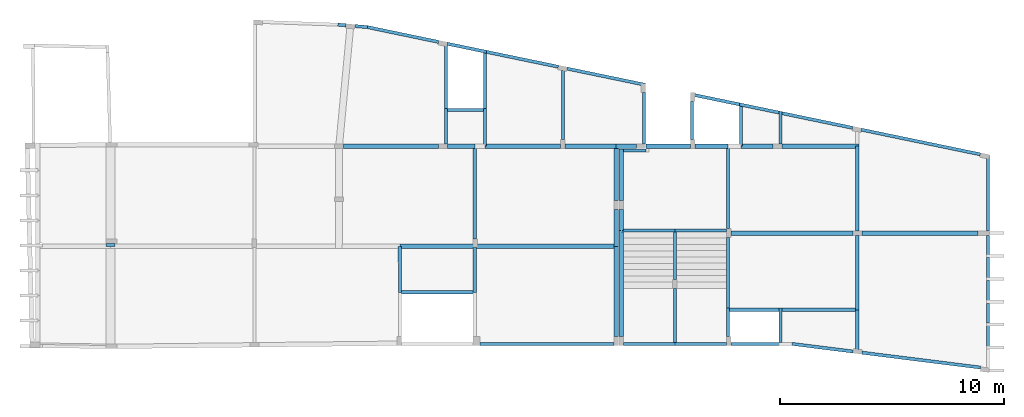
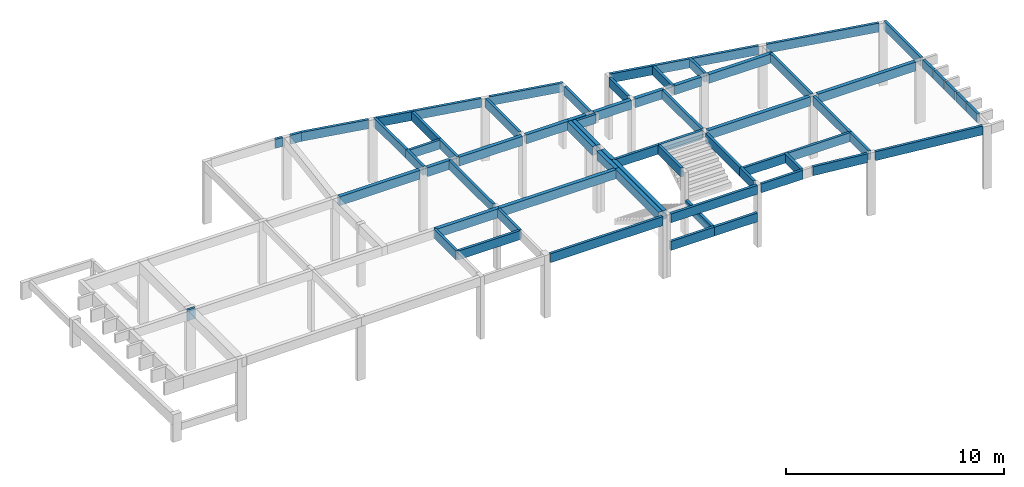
# One storey, part 2 of 5: 71 beams.
"""IFC4 building model written with IfcOpenShell, lengths in centimetres."""

import ifcopenshell
import ifcopenshell.guid

model = None  # the IFC model being written
_history = None  # IfcOwnerHistory: only IFC2X3 demands one
_inside = {}  # id of a spatial element -> (the spatial element, [elements in it])
_under = {}  # id of a project, library or spatial element -> (it, [spatial elements below it])
_declared = {}  # id of a project -> (the project, [libraries it declares])
_typed = {}  # id of a type object -> (the type object, [elements of that type])
_made_of = {}  # id of a material, layer set ... -> (it, [elements and type objects made of it])


def new_model(schema):
    """Start an empty IFC model of exactly this schema.

    Asked for "IFC4X3", IfcOpenShell would pick the latest addendum, in which some entities
    have other attributes; the version numbers below select the first issue.
    IFC2X3 requires an IfcOwnerHistory on every rooted entity: one is made here for all.
    """
    global model, _history
    if schema == "IFC4X3":
        model = ifcopenshell.file(schema_version=(4, 3, 0, 0))
    else:
        model = ifcopenshell.file(schema=schema)
    _inside.clear()
    _under.clear()
    _declared.clear()
    _typed.clear()
    _made_of.clear()
    _history = None
    if model.schema == "IFC2X3":
        org = make("IfcOrganization", Name="unknown")
        user = make(
            "IfcPersonAndOrganization",
            ThePerson=make("IfcPerson", FamilyName="unknown"),
            TheOrganization=org,
        )
        app = make(
            "IfcApplication",
            ApplicationDeveloper=org,
            Version="unknown",
            ApplicationFullName="unknown",
            ApplicationIdentifier="unknown",
        )
        _history = make(
            "IfcOwnerHistory",
            OwningUser=user,
            OwningApplication=app,
            ChangeAction="ADDED",
            CreationDate=0,
        )
    return model


def make(cls, **values):
    """One entity of the class cls with the attributes given. An attribute that is None is left unset."""
    return model.create_entity(
        cls, **{name: value for name, value in values.items() if value is not None}
    )


def rooted(cls, **values):
    """An entity with a GlobalId (a new one), such as an element, a storey or a relation."""
    return make(cls, GlobalId=ifcopenshell.guid.new(), OwnerHistory=_history, **values)


def si_unit(unit_type, name, prefix=None):
    """IfcSIUnit, for example si_unit("LENGTHUNIT", "METRE", prefix="MILLI")."""
    return make("IfcSIUnit", UnitType=unit_type, Prefix=prefix, Name=name)


def derived_unit(unit_type, elements):
    """IfcDerivedUnit: a product of units, each with its exponent."""
    return make(
        "IfcDerivedUnit",
        Elements=[
            make("IfcDerivedUnitElement", Unit=unit, Exponent=power)
            for unit, power in elements
        ],
        UnitType=unit_type,
    )


def assignment(units):
    """IfcUnitAssignment: the units of a project."""
    return None if units is None else make("IfcUnitAssignment", Units=units)


def point(xyz):
    """IfcCartesianPoint."""
    return None if xyz is None else make("IfcCartesianPoint", Coordinates=xyz)


def direction(xyz):
    """IfcDirection."""
    return None if xyz is None else make("IfcDirection", DirectionRatios=xyz)


def frame(location, z_axis=None, x_axis=None):
    """IfcAxis2Placement3D, a coordinate frame: its origin and axes. An axis left out is left unset."""
    return make(
        "IfcAxis2Placement3D",
        Location=point(location),
        Axis=direction(z_axis),
        RefDirection=direction(x_axis),
    )


def frame_2d(location, x_axis=None):
    """IfcAxis2Placement2D, a coordinate frame in the plane: its origin and x axis."""
    return make(
        "IfcAxis2Placement2D", Location=point(location), RefDirection=direction(x_axis)
    )


def origin():
    """The frame at (0, 0, 0) with its axes left unset."""
    return frame((0.0, 0.0, 0.0))


def origin_with_axes():
    """The frame at (0, 0, 0) with the z axis (0, 0, 1) and the x axis (1, 0, 0) written out."""
    return frame((0.0, 0.0, 0.0), z_axis=(0.0, 0.0, 1.0), x_axis=(1.0, 0.0, 0.0))


def origin_2d_with_axis():
    """The frame at (0, 0) in the plane with the x axis (1, 0) written out."""
    return frame_2d((0.0, 0.0), x_axis=(1.0, 0.0))


def place(relative_to, where):
    """IfcLocalPlacement: puts the frame where relative to a parent placement (None: the world)."""
    return make(
        "IfcLocalPlacement", PlacementRelTo=relative_to, RelativePlacement=where
    )


def context(
    kind, dimensions, precision=None, world=None, true_north=None, identifier=None
):
    """IfcGeometricRepresentationContext, for example the 3D "Model" context."""
    return make(
        "IfcGeometricRepresentationContext",
        ContextIdentifier=identifier,
        ContextType=kind,
        CoordinateSpaceDimension=dimensions,
        Precision=precision,
        WorldCoordinateSystem=world,
        TrueNorth=true_north,
    )


def project(units=None, contexts=None):
    """IfcProject with its units and contexts."""
    return rooted(
        "IfcProject",
        Name="project",
        RepresentationContexts=contexts,
        UnitsInContext=assignment(units),
    )


def spatial(cls, under=None, at=None, **own):
    """A site, building, storey or space (cls), placed at a placement, below another one or the project."""
    s = rooted(cls, ObjectPlacement=at, **own)
    if under is not None:
        _under.setdefault(under.id(), (under, []))[1].append(s)
    return s


def profile(cls, at=None, kind="AREA", **sizes):
    """A parametric profile (cls). Its sizes go by their IFC names, for example OverallWidth=200.0."""
    return make(cls, ProfileType=kind, Position=at, **sizes)


def rectangle(**sizes):
    """IfcRectangleProfileDef."""
    return profile("IfcRectangleProfileDef", **sizes)


def extrude(swept, where, along, depth):
    """IfcExtrudedAreaSolid: the profile swept, set in the frame where, extruded along a direction by depth."""
    return make(
        "IfcExtrudedAreaSolid",
        SweptArea=swept,
        Position=where,
        ExtrudedDirection=direction(along),
        Depth=depth,
    )


def clip(a, b, op="DIFFERENCE"):
    """IfcBooleanClippingResult: the solid a cut by the half space b."""
    return make(
        "IfcBooleanClippingResult", Operator=op, FirstOperand=a, SecondOperand=b
    )


def halfspace(plane, agree):
    """IfcHalfSpaceSolid: all space on one side of the plane z = 0 of the frame plane."""
    return make(
        "IfcHalfSpaceSolid",
        BaseSurface=make("IfcPlane", Position=plane),
        AgreementFlag=agree,
    )


def shape(context_of_items, identifier, shape_type, items):
    """IfcShapeRepresentation: the items that make up one representation, for example the "Body"."""
    return make(
        "IfcShapeRepresentation",
        ContextOfItems=context_of_items,
        RepresentationIdentifier=identifier,
        RepresentationType=shape_type,
        Items=items,
    )


def material(Name=None, Category=None):
    """IfcMaterial."""
    return make("IfcMaterial", Name=Name, Category=Category)


def made_of(thing, what):
    """Note that an element or type object is made of a material, layer set ...; save() writes the relation."""
    if what is not None:
        _made_of.setdefault(what.id(), (what, []))[1].append(thing)
    return thing


def element(
    cls,
    number,
    at=None,
    inside=None,
    cuts=None,
    type_object=None,
    material=None,
    context=None,
    identifier="Body",
    shape_type=None,
    held_by="IfcProductDefinitionShape",
    body=None,
    shapes=None,
    **own,
):
    """One element of the class cls, such as IfcWall. Its Tag is "e" and its number.

    at: its placement. inside: the storey or other place that contains it. cuts: it is an
    opening in that element (IfcRelVoidsElement). A single representation is given by context,
    identifier, shape_type and body (its items); several are given by shapes. held_by: the class
    of the entity that holds the representations. save() writes the other relations.
    """
    e = rooted(cls, Tag="e%d" % number, ObjectPlacement=at, **own)
    if body is not None:
        shapes = [shape(context, identifier, shape_type, body)]
    if shapes is not None:
        e.Representation = make(held_by, Representations=shapes)
    if inside is not None:
        _inside.setdefault(inside.id(), (inside, []))[1].append(e)
    if cuts is not None:
        rooted(
            "IfcRelVoidsElement", RelatingBuildingElement=cuts, RelatedOpeningElement=e
        )
    if type_object is not None:
        _typed.setdefault(type_object.id(), (type_object, []))[1].append(e)
    return made_of(e, material)


def aggregate(whole, parts):
    """IfcRelAggregates: a whole, such as a stair, and the parts it consists of."""
    return rooted("IfcRelAggregates", RelatingObject=whole, RelatedObjects=parts)


def save(model, path):
    """Write the relations noted so far, then the file.

    IfcRelAggregates (storeys below a building ...), IfcRelContainedInSpatialStructure (elements
    in a storey), IfcRelDefinesByType, IfcRelAssociatesMaterial and IfcRelDeclares: one each for
    every whole, place, type object, material and project.
    """
    for whole, parts in _under.values():
        aggregate(whole, parts)
    for where, things in _inside.values():
        rooted(
            "IfcRelContainedInSpatialStructure",
            RelatedElements=things,
            RelatingStructure=where,
        )
    for kind, things in _typed.values():
        rooted("IfcRelDefinesByType", RelatedObjects=things, RelatingType=kind)
    for what, things in _made_of.values():
        rooted("IfcRelAssociatesMaterial", RelatedObjects=things, RelatingMaterial=what)
    for by, libraries in _declared.values():
        rooted("IfcRelDeclares", RelatingContext=by, RelatedDefinitions=libraries)
    model.write(path)


model = new_model("IFC4")

# Units and contexts
model_context = context("Model", 3, precision=1e-05, world=origin_with_axes(), identifier="Body")
ifc_project = project(units=[si_unit("LENGTHUNIT", "METRE", prefix="CENTI"), si_unit("VOLUMEUNIT", "CUBIC_METRE"), si_unit("AREAUNIT", "SQUARE_METRE"), si_unit("POWERUNIT", "WATT"), si_unit("LUMINOUSFLUXUNIT", "LUMEN"), si_unit("ELECTRICCURRENTUNIT", "AMPERE"), si_unit("PRESSUREUNIT", "PASCAL", prefix="KILO"), si_unit("MASSUNIT", "GRAM", prefix="KILO"), si_unit("PLANEANGLEUNIT", "RADIAN"), derived_unit("VOLUMETRICFLOWRATEUNIT", [(si_unit("LENGTHUNIT", "METRE"), 3), (si_unit("TIMEUNIT", "SECOND"), -1)])], contexts=[model_context])

# Site, building, storey
site_placement = place(None, origin_with_axes())
site = spatial("IfcSite", under=ifc_project, at=site_placement)
building_placement = place(site_placement, origin())
building = spatial("IfcBuilding", under=site, at=building_placement)
placement_1 = place(building_placement, origin_with_axes())
placement_2 = place(placement_1, frame((0.0, 0.0, 550.0), z_axis=(0.0, 0.0, 1.0), x_axis=(1.0, 0.0, 0.0)))
storey_placement = place(placement_2, frame((0.0, 0.0, 350.0), z_axis=(0.0, 0.0, 1.0), x_axis=(1.0, 0.0, 0.0)))
storey = spatial("IfcBuildingStorey", under=building, at=storey_placement, Name="1º PAV.", CompositionType="ELEMENT", Elevation=900.0)

# Beams
ifc_material = material(Name="Concreto")
for number, where, z_axis, x_axis in (
    (1, (2788.6, -1337.1, -154.5), (0.0, 0.0, 1.0), (1.0, 0.0, 0.0)),
    (2, (3018.6, -1337.1, -154.5), (0.0, 0.0, 1.0), (1.0, 0.0, 0.0)),
):
    element("IfcBeam", number, at=place(storey_placement, frame(where, z_axis=z_axis, x_axis=x_axis)), inside=storey, material=ifc_material, Name="V.ESCADA1", context=model_context, shape_type="SolidModel", body=[
        extrude(rectangle(XDim=14.0, YDim=50.0, at=origin_2d_with_axis()), frame((-115.0, 0.0, -25.0), z_axis=(1.0, 0.0, 0.0), x_axis=(0.0, 1.0, 0.0)), (0.0, 0.0, 1.0), 230.0),
    ])
beam_1_placement = place(storey_placement, frame((2903.6, -1213.6, -154.5), z_axis=(0.0, 0.0, 1.0), x_axis=(1.0, 0.0, 0.0)))
element("IfcBeam", 3, at=beam_1_placement, inside=storey, material=ifc_material, Name="V.ESCADA2", context=model_context, shape_type="SolidModel", body=[
    extrude(rectangle(XDim=14.0, YDim=50.0, at=origin_2d_with_axis()), frame((0.0, -123.5, -25.0), z_axis=(0.0, 1.0, 0.0), x_axis=(1.0, 0.0, 0.0)), (0.0, 0.0, 1.0), 247.0),
])
beam_2_placement = place(storey_placement, frame((1971.0, -294.9, 0.0), z_axis=(0.0, 0.0, 1.0), x_axis=(1.0, 0.0, 0.0)))
element("IfcBeam", 4, at=beam_2_placement, inside=storey, material=ifc_material, Name="V1", context=model_context, shape_type="SolidModel", body=[
    extrude(rectangle(XDim=14.0, YDim=50.0, at=origin_2d_with_axis()), frame((-80.0, 0.0, -25.0), z_axis=(1.0, 0.0, 0.0), x_axis=(0.0, 1.0, 0.0)), (0.0, 0.0, 1.0), 160.0),
])
beam_3_placement = place(storey_placement, frame((3425.1, -843.1, 0.0), z_axis=(0.0, 0.0, 1.0), x_axis=(1.0, 0.0, 0.0)))
element("IfcBeam", 5, at=beam_3_placement, inside=storey, material=ifc_material, Name="V10", context=model_context, shape_type="SolidModel", body=[
    extrude(rectangle(XDim=20.0, YDim=50.0, at=origin_2d_with_axis()), frame((-271.5, 0.0, -25.0), z_axis=(1.0, 0.0, 0.0), x_axis=(0.0, 1.0, 0.0)), (0.0, 0.0, 1.0), 543.0),
])
beam_4_placement = place(storey_placement, frame((3996.1, -843.1, 0.0), z_axis=(0.0, 0.0, 1.0), x_axis=(1.0, 0.0, 0.0)))
element("IfcBeam", 6, at=beam_4_placement, inside=storey, material=ifc_material, Name="V10", context=model_context, shape_type="SolidModel", body=[
    extrude(rectangle(XDim=20.0, YDim=50.0, at=origin_2d_with_axis()), frame((-259.5, 0.0, -25.0), z_axis=(1.0, 0.0, 0.0), x_axis=(0.0, 1.0, 0.0)), (0.0, 0.0, 1.0), 519.0),
])
beam_5_placement = place(storey_placement, frame((1846.085, -902.4, 0.0), z_axis=(0.0, 0.0, 1.0), x_axis=(1.0, 0.0, 0.0)))
element("IfcBeam", 7, at=beam_5_placement, inside=storey, material=ifc_material, Name="V13", context=model_context, shape_type="SolidModel", body=[
    extrude(rectangle(XDim=20.0, YDim=50.0, at=origin_2d_with_axis()), frame((-168.515, 0.0, -25.0), z_axis=(1.0, 0.0, 0.0), x_axis=(0.0, 1.0, 0.0)), (0.0, 0.0, 1.0), 337.03),
])
beam_6_placement = place(storey_placement, frame((2328.105, -902.4, 0.0), z_axis=(0.0, 0.0, 1.0), x_axis=(1.0, 0.0, 0.0)))
element("IfcBeam", 8, at=beam_6_placement, inside=storey, material=ifc_material, Name="V13", context=model_context, shape_type="SolidModel", body=[
    extrude(rectangle(XDim=20.0, YDim=50.0, at=origin_2d_with_axis()), frame((-313.505, 0.0, -25.0), z_axis=(1.0, 0.0, 0.0), x_axis=(0.0, 1.0, 0.0)), (0.0, 0.0, 1.0), 627.01),
])
beam_7_placement = place(storey_placement, frame((1844.6, -1106.9, 0.0), z_axis=(0.0, 0.0, 1.0), x_axis=(1.0, 0.0, 0.0)))
element("IfcBeam", 9, at=beam_7_placement, inside=storey, material=ifc_material, Name="V18", context=model_context, shape_type="SolidModel", body=[
    extrude(rectangle(XDim=14.0, YDim=50.0, at=origin_2d_with_axis()), frame((-167.0, 0.0, -25.0), z_axis=(1.0, 0.0, 0.0), x_axis=(0.0, -1.0, 0.0)), (0.0, 0.0, 1.0), 334.0),
])
beam_8_placement = place(storey_placement, frame((3257.6, -1184.9, 0.0), z_axis=(0.0, 0.0, 1.0), x_axis=(1.0, 0.0, 0.0)))
element("IfcBeam", 10, at=beam_8_placement, inside=storey, material=ifc_material, Name="V19", context=model_context, shape_type="SolidModel", body=[
    extrude(rectangle(XDim=14.0, YDim=50.0, at=origin_2d_with_axis()), frame((-110.0, 0.0, -25.0), z_axis=(1.0, 0.0, 0.0), x_axis=(0.0, 1.0, 0.0)), (0.0, 0.0, 1.0), 220.0),
])
beam_9_placement = place(storey_placement, frame((3545.6, -1184.9, 0.0), z_axis=(0.0, 0.0, 1.0), x_axis=(1.0, 0.0, 0.0)))
element("IfcBeam", 11, at=beam_9_placement, inside=storey, material=ifc_material, Name="V19", context=model_context, shape_type="SolidModel", body=[
    extrude(rectangle(XDim=14.0, YDim=50.0, at=origin_2d_with_axis()), frame((-171.0, 0.0, -25.0), z_axis=(1.0, 0.0, 0.0), x_axis=(0.0, 1.0, 0.0)), (0.0, 0.0, 1.0), 342.0),
])
beam_10_placement = place(storey_placement, frame((2333.1, -1337.1, 0.0), z_axis=(0.0, 0.0, 1.0), x_axis=(1.0, 0.0, 0.0)))
element("IfcBeam", 12, at=beam_10_placement, inside=storey, material=ifc_material, Name="V25", context=model_context, shape_type="SolidModel", body=[
    extrude(rectangle(XDim=14.0, YDim=50.0, at=origin_2d_with_axis()), frame((-298.5, 0.0, -25.0), z_axis=(1.0, 0.0, 0.0), x_axis=(0.0, -1.0, 0.0)), (0.0, 0.0, 1.0), 597.0),
])
beam_11_placement = place(storey_placement, frame((387.75, -896.16, 0.0), z_axis=(0.0, 0.0, 1.0), x_axis=(1.0, 0.0, 0.0)))
element("IfcBeam", 13, at=beam_11_placement, inside=storey, material=ifc_material, Name="V29", context=model_context, shape_type="SolidModel", body=[
    extrude(rectangle(XDim=40.0, YDim=60.0, at=origin_2d_with_axis()), frame((0.0, -6.26, -30.0), z_axis=(0.0, 1.0, 0.0), x_axis=(1.0, 0.0, 0.0)), (0.0, 0.0, 1.0), 12.52),
])
beam_12_placement = place(storey_placement, frame((2687.3, -455.9, 0.0), z_axis=(0.0, 0.0, 1.0), x_axis=(1.0, 0.0, 0.0)))
element("IfcBeam", 14, at=beam_12_placement, inside=storey, material=ifc_material, Name="V3", context=model_context, shape_type="SolidModel", body=[
    extrude(rectangle(XDim=20.0, YDim=50.0, at=origin_2d_with_axis()), frame((-45.7, 0.0, -25.0), z_axis=(1.0, 0.0, 0.0), x_axis=(0.0, 1.0, 0.0)), (0.0, 0.0, 1.0), 91.4),
])
beam_13_placement = place(storey_placement, frame((1638.5, -455.9, 0.0), z_axis=(0.0, 0.0, 1.0), x_axis=(1.0, 0.0, 0.0)))
element("IfcBeam", 15, at=beam_13_placement, inside=storey, material=ifc_material, Name="V3", context=model_context, shape_type="SolidModel", body=[
    extrude(rectangle(XDim=20.0, YDim=50.0, at=origin_2d_with_axis()), frame((-212.5, 0.0, -25.0), z_axis=(1.0, 0.0, 0.0), x_axis=(0.0, 1.0, 0.0)), (0.0, 0.0, 1.0), 425.0),
])
beam_14_placement = place(storey_placement, frame((1951.3, -455.9, 0.0), z_axis=(0.0, 0.0, 1.0), x_axis=(1.0, 0.0, 0.0)))
element("IfcBeam", 16, at=beam_14_placement, inside=storey, material=ifc_material, Name="V3", context=model_context, shape_type="SolidModel", body=[
    extrude(rectangle(XDim=20.0, YDim=50.0, at=origin_2d_with_axis()), frame((-60.3, 0.0, -25.0), z_axis=(1.0, 0.0, 0.0), x_axis=(0.0, 1.0, 0.0)), (0.0, 0.0, 1.0), 120.6),
])
beam_15_placement = place(storey_placement, frame((2226.25, -455.9, 0.0), z_axis=(0.0, 0.0, 1.0), x_axis=(1.0, 0.0, 0.0)))
element("IfcBeam", 17, at=beam_15_placement, inside=storey, material=ifc_material, Name="V3", context=model_context, shape_type="SolidModel", body=[
    extrude(rectangle(XDim=20.0, YDim=50.0, at=origin_2d_with_axis()), frame((-168.25, 0.0, -25.0), z_axis=(1.0, 0.0, 0.0), x_axis=(0.0, 1.0, 0.0)), (0.0, 0.0, 1.0), 336.5),
])
beam_16_placement = place(storey_placement, frame((2528.05, -455.9, 0.0), z_axis=(0.0, 0.0, 1.0), x_axis=(1.0, 0.0, 0.0)))
element("IfcBeam", 18, at=beam_16_placement, inside=storey, material=ifc_material, Name="V3", context=model_context, shape_type="SolidModel", body=[
    extrude(rectangle(XDim=20.0, YDim=50.0, at=origin_2d_with_axis()), frame((-113.55, 0.0, -25.0), z_axis=(1.0, 0.0, 0.0), x_axis=(0.0, 1.0, 0.0)), (0.0, 0.0, 1.0), 227.1),
])
beam_17_placement = place(storey_placement, frame((1677.5850000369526, -1004.6502567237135, 0.0), z_axis=(0.0, 0.0, 1.0), x_axis=(1.0, 0.0, 0.0)))
element("IfcBeam", 19, at=beam_17_placement, inside=storey, material=ifc_material, Name="V32", context=model_context, shape_type="SolidModel", body=[
    extrude(rectangle(XDim=14.0, YDim=50.0, at=origin_2d_with_axis()), frame((0.015000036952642, -102.25025672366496, -25.0), z_axis=(-0.000146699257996, 1.0, 0.0), x_axis=(1.0, 0.000146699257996, 0.0)), (0.0, 0.0, 1.0), 204.50051564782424),
])
beam_18_placement = place(storey_placement, frame((1884.0, -143.655, 0.0), z_axis=(0.0, 0.0, 1.0), x_axis=(1.0, 0.0, 0.0)))
element("IfcBeam", 20, at=beam_18_placement, inside=storey, material=ifc_material, Name="V33", context=model_context, shape_type="SolidModel", body=[
    extrude(rectangle(XDim=14.0, YDim=50.0, at=origin_2d_with_axis()), frame((0.0, -151.245, -25.0), z_axis=(0.0, 1.0, 0.0), x_axis=(1.0, 0.0, 0.0)), (0.0, 0.0, 1.0), 302.49),
])
beam_19_placement = place(storey_placement, frame((1884.0, -366.9, 0.0), z_axis=(0.0, 0.0, 1.0), x_axis=(1.0, 0.0, 0.0)))
element("IfcBeam", 21, at=beam_19_placement, inside=storey, material=ifc_material, Name="V33", context=model_context, shape_type="SolidModel", body=[
    extrude(rectangle(XDim=14.0, YDim=50.0, at=origin_2d_with_axis()), frame((0.0, -79.0, -25.0), z_axis=(0.0, 1.0, 0.0), x_axis=(1.0, 0.0, 0.0)), (0.0, 0.0, 1.0), 158.0),
])
beam_20_placement = place(storey_placement, frame((2011.6, -1007.65, 0.0), z_axis=(0.0, 0.0, 1.0), x_axis=(1.0, 0.0, 0.0)))
element("IfcBeam", 22, at=beam_20_placement, inside=storey, material=ifc_material, Name="V34", context=model_context, shape_type="SolidModel", body=[
    extrude(rectangle(XDim=14.0, YDim=50.0, at=origin_2d_with_axis()), frame((0.0, -99.25, -25.0), z_axis=(0.0, 1.0, 0.0), x_axis=(1.0, 0.0, 0.0)), (0.0, 0.0, 1.0), 198.5),
])
beam_21_placement = place(storey_placement, frame((2011.6, -662.15, 0.0), z_axis=(0.0, 0.0, 1.0), x_axis=(1.0, 0.0, 0.0)))
element("IfcBeam", 23, at=beam_21_placement, inside=storey, material=ifc_material, Name="V34", context=model_context, shape_type="SolidModel", body=[
    extrude(rectangle(XDim=14.0, YDim=50.0, at=origin_2d_with_axis()), frame((0.0, -206.25, -25.0), z_axis=(0.0, 1.0, 0.0), x_axis=(1.0, 0.0, 0.0)), (0.0, 0.0, 1.0), 412.5),
])
beam_22_placement = place(storey_placement, frame((2058.0, -167.41825719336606, 0.0), z_axis=(0.0, 0.0, 1.0), x_axis=(1.0, 0.0, 0.0)))
element("IfcBeam", 24, at=beam_22_placement, inside=storey, material=ifc_material, Name="V35", context=model_context, shape_type="Clipping", body=[
    clip(extrude(rectangle(XDim=14.0, YDim=50.0, at=origin_2d_with_axis()), frame((0.0, -127.48174280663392, -25.0), z_axis=(0.0, 1.0, 0.0), x_axis=(1.0, 0.0, 0.0)), (0.0, 0.0, 1.0), 254.96348561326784), halfspace(frame((-7.0, 127.48174280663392, -50.0), z_axis=(-0.203188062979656, -0.979139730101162, 0.0), x_axis=(0.0, 0.0, -0.203188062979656)), True)),
])
beam_23_placement = place(storey_placement, frame((2058.0, -371.9, 0.0), z_axis=(0.0, 0.0, 1.0), x_axis=(1.0, 0.0, 0.0)))
element("IfcBeam", 25, at=beam_23_placement, inside=storey, material=ifc_material, Name="V35", context=model_context, shape_type="SolidModel", body=[
    extrude(rectangle(XDim=14.0, YDim=50.0, at=origin_2d_with_axis()), frame((0.0, -84.0, -25.0), z_axis=(0.0, 1.0, 0.0), x_axis=(1.0, 0.0, 0.0)), (0.0, 0.0, 1.0), 168.0),
])
beam_24_placement = place(storey_placement, frame((2404.5, -271.943363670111, 0.0), z_axis=(0.0, 0.0, 1.0), x_axis=(1.0, 0.0, 0.0)))
element("IfcBeam", 26, at=beam_24_placement, inside=storey, material=ifc_material, Name="V36", context=model_context, shape_type="SolidModel", body=[
    extrude(rectangle(XDim=14.0, YDim=50.0, at=origin_2d_with_axis()), frame((0.0, -153.95663632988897, -25.0), z_axis=(0.0, 1.0, 0.0), x_axis=(1.0, 0.0, 0.0)), (0.0, 0.0, 1.0), 307.91327265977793),
])
beam_25_placement = place(storey_placement, frame((2663.6, -784.6, 0.0), z_axis=(0.0, 0.0, 1.0), x_axis=(1.0, 0.0, 0.0)))
element("IfcBeam", 27, at=beam_25_placement, inside=storey, material=ifc_material, Name="V37", context=model_context, shape_type="SolidModel", body=[
    extrude(rectangle(XDim=20.0, YDim=50.0, at=origin_2d_with_axis()), frame((0.0, -46.5, -25.0), z_axis=(0.0, 1.0, 0.0), x_axis=(1.0, 0.0, 0.0)), (0.0, 0.0, 1.0), 93.0),
])
beam_26_placement = place(storey_placement, frame((2663.6, -583.0, 0.0), z_axis=(0.0, 0.0, 1.0), x_axis=(1.0, 0.0, 0.0)))
element("IfcBeam", 28, at=beam_26_placement, inside=storey, material=ifc_material, Name="V37", context=model_context, shape_type="SolidModel", body=[
    extrude(rectangle(XDim=20.0, YDim=50.0, at=origin_2d_with_axis()), frame((0.0, -115.1, -25.0), z_axis=(0.0, 1.0, 0.0), x_axis=(1.0, 0.0, 0.0)), (0.0, 0.0, 1.0), 230.2),
])
beam_27_placement = place(storey_placement, frame((2663.6, -1067.6, 0.0), z_axis=(0.0, 0.0, 1.0), x_axis=(1.0, 0.0, 0.0)))
element("IfcBeam", 29, at=beam_27_placement, inside=storey, material=ifc_material, Name="V37", context=model_context, shape_type="SolidModel", body=[
    extrude(rectangle(XDim=20.0, YDim=50.0, at=origin_2d_with_axis()), frame((0.0, -236.5, -25.0), z_axis=(0.0, 1.0, 0.0), x_axis=(1.0, 0.0, 0.0)), (0.0, 0.0, 1.0), 473.0),
])
beam_28_placement = place(storey_placement, frame((2641.605, -1103.2498755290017, 0.0), z_axis=(0.0, 0.0, 1.0), x_axis=(1.0, 0.0, 0.0)))
element("IfcBeam", 30, at=beam_28_placement, inside=storey, material=ifc_material, Name="V38", context=model_context, shape_type="SolidModel", body=[
    extrude(rectangle(XDim=20.0, YDim=50.0, at=origin_2d_with_axis()), frame((-0.005, -200.85012447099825, -25.0), z_axis=(2.4894199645e-05, 1.0, 0.0), x_axis=(1.0, -2.4894199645e-05, 0.0)), (0.0, 0.0, 1.0), 401.70024906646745),
])
beam_29_placement = place(storey_placement, frame((2641.6, -577.0, 0.0), z_axis=(0.0, 0.0, 1.0), x_axis=(1.0, 0.0, 0.0)))
element("IfcBeam", 31, at=beam_29_placement, inside=storey, material=ifc_material, Name="V38", context=model_context, shape_type="SolidModel", body=[
    extrude(rectangle(XDim=20.0, YDim=50.0, at=origin_2d_with_axis()), frame((0.0, -121.1, -25.0), z_axis=(0.0, 1.0, 0.0), x_axis=(1.0, 0.0, 0.0)), (0.0, 0.0, 1.0), 242.2),
])
beam_30_placement = place(storey_placement, frame((2641.6050000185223, -820.2503043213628, 0.0), z_axis=(0.0, 0.0, 1.0), x_axis=(1.0, 0.0, 0.0)))
element("IfcBeam", 32, at=beam_30_placement, inside=storey, material=ifc_material, Name="V38", context=model_context, shape_type="SolidModel", body=[
    extrude(rectangle(XDim=20.0, YDim=50.0, at=origin_2d_with_axis()), frame((0.005000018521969, -82.15030432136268, -25.0), z_axis=(-6.0864272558e-05, 1.0, 0.0), x_axis=(1.0, 6.0864272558e-05, 0.0)), (0.0, 0.0, 1.0), 164.30060894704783),
])
beam_31_placement = place(storey_placement, frame((2724.3, -474.9, 0.0), z_axis=(0.0, 0.0, 1.0), x_axis=(1.0, 0.0, 0.0)))
element("IfcBeam", 33, at=beam_31_placement, inside=storey, material=ifc_material, Name="V4", context=model_context, shape_type="SolidModel", body=[
    extrude(rectangle(XDim=14.0, YDim=50.0, at=origin_2d_with_axis()), frame((-50.7, 0.0, -25.0), z_axis=(1.0, 0.0, 0.0), x_axis=(0.0, 1.0, 0.0)), (0.0, 0.0, 1.0), 101.4),
])
beam_32_placement = place(storey_placement, frame((2766.0, -330.695, 0.0), z_axis=(0.0, 0.0, 1.0), x_axis=(1.0, 0.0, 0.0)))
element("IfcBeam", 34, at=beam_32_placement, inside=storey, material=ifc_material, Name="V40", context=model_context, shape_type="SolidModel", body=[
    extrude(rectangle(XDim=14.0, YDim=50.0, at=origin_2d_with_axis()), frame((0.0, -115.205, -25.0), z_axis=(0.0, 1.0, 0.0), x_axis=(1.0, 0.0, 0.0)), (0.0, 0.0, 1.0), 230.41),
])
beam_33_placement = place(storey_placement, frame((2903.6, -944.1, 0.0), z_axis=(0.0, 0.0, 1.0), x_axis=(1.0, 0.0, 0.0)))
element("IfcBeam", 35, at=beam_33_placement, inside=storey, material=ifc_material, Name="V41", context=model_context, shape_type="SolidModel", body=[
    extrude(rectangle(XDim=14.0, YDim=50.0, at=origin_2d_with_axis()), frame((0.0, -106.0, -25.0), z_axis=(0.0, 1.0, 0.0), x_axis=(1.0, 0.0, 0.0)), (0.0, 0.0, 1.0), 212.0),
])
beam_34_placement = place(storey_placement, frame((2980.0, -341.45, 0.0), z_axis=(0.0, 0.0, 1.0), x_axis=(1.0, 0.0, 0.0)))
element("IfcBeam", 36, at=beam_34_placement, inside=storey, material=ifc_material, Name="V42", context=model_context, shape_type="SolidModel", body=[
    extrude(rectangle(XDim=14.0, YDim=50.0, at=origin_2d_with_axis()), frame((0.0, -84.45, -25.0), z_axis=(0.0, 1.0, 0.0), x_axis=(1.0, 0.0, 0.0)), (0.0, 0.0, 1.0), 168.9),
])
beam_35_placement = place(storey_placement, frame((3140.6, -639.75, 0.0), z_axis=(0.0, 0.0, 1.0), x_axis=(1.0, 0.0, 0.0)))
element("IfcBeam", 37, at=beam_35_placement, inside=storey, material=ifc_material, Name="V43", context=model_context, shape_type="SolidModel", body=[
    extrude(rectangle(XDim=14.0, YDim=50.0, at=origin_2d_with_axis()), frame((0.0, -183.85, -25.0), z_axis=(0.0, 1.0, 0.0), x_axis=(1.0, 0.0, 0.0)), (0.0, 0.0, 1.0), 367.7),
])
beam_36_placement = place(storey_placement, frame((3140.6, -1024.25, 0.0), z_axis=(0.0, 0.0, 1.0), x_axis=(1.0, 0.0, 0.0)))
element("IfcBeam", 38, at=beam_36_placement, inside=storey, material=ifc_material, Name="V43", context=model_context, shape_type="SolidModel", body=[
    extrude(rectangle(XDim=14.0, YDim=50.0, at=origin_2d_with_axis()), frame((0.0, -160.65, -25.0), z_axis=(0.0, 1.0, 0.0), x_axis=(1.0, 0.0, 0.0)), (0.0, 0.0, 1.0), 321.3),
])
beam_37_placement = place(storey_placement, frame((3140.6, -1241.0, 0.0), z_axis=(0.0, 0.0, 1.0), x_axis=(1.0, 0.0, 0.0)))
element("IfcBeam", 39, at=beam_37_placement, inside=storey, material=ifc_material, Name="V43", context=model_context, shape_type="SolidModel", body=[
    extrude(rectangle(XDim=14.0, YDim=50.0, at=origin_2d_with_axis()), frame((0.0, -63.1, -25.0), z_axis=(0.0, 1.0, 0.0), x_axis=(1.0, 0.0, 0.0)), (0.0, 0.0, 1.0), 126.2),
])
beam_38_placement = place(storey_placement, frame((3199.0, -366.3280979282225, 0.0), z_axis=(0.0, 0.0, 1.0), x_axis=(1.0, 0.0, 0.0)))
element("IfcBeam", 40, at=beam_38_placement, inside=storey, material=ifc_material, Name="V44", context=model_context, shape_type="Clipping", body=[
    clip(extrude(rectangle(XDim=14.0, YDim=50.0, at=origin_2d_with_axis()), frame((0.0, -89.57190207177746, -25.0), z_axis=(0.0, 1.0, 0.0), x_axis=(1.0, 0.0, 0.0)), (0.0, 0.0, 1.0), 179.14380414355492), halfspace(frame((-7.0, 89.57190207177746, -50.0), z_axis=(-0.203241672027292, -0.979128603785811, 0.0), x_axis=(0.0, 0.0, -0.203241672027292)), True)),
])
beam_39_placement = place(storey_placement, frame((3374.6, -1253.980675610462, 0.0), z_axis=(0.0, 0.0, 1.0), x_axis=(1.0, 0.0, 0.0)))
element("IfcBeam", 41, at=beam_39_placement, inside=storey, material=ifc_material, Name="V45", context=model_context, shape_type="SolidModel", body=[
    extrude(rectangle(XDim=14.0, YDim=50.0, at=origin_2d_with_axis()), frame((0.0, -76.08067561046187, -25.0), z_axis=(0.0, 1.0, 0.0), x_axis=(1.0, 0.0, 0.0)), (0.0, 0.0, 1.0), 152.16135122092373),
])
beam_40_placement = place(storey_placement, frame((3374.6, -372.4038838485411, 0.0), z_axis=(0.0, 0.0, 1.0), x_axis=(1.0, 0.0, 0.0)))
element("IfcBeam", 42, at=beam_40_placement, inside=storey, material=ifc_material, Name="V46", context=model_context, shape_type="Clipping", body=[
    clip(extrude(rectangle(XDim=14.0, YDim=50.0, at=origin_2d_with_axis()), frame((0.0, -73.49611615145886, -25.0), z_axis=(0.0, 1.0, 0.0), x_axis=(1.0, 0.0, 0.0)), (0.0, 0.0, 1.0), 146.99223230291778), halfspace(frame((-7.0, 73.49611615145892, -50.0), z_axis=(-0.203241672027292, -0.979128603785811, 0.0), x_axis=(0.0, 0.0, -0.203241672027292)), True)),
])
beam_41_placement = place(storey_placement, frame((3716.6, -1273.0826731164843, 0.0), z_axis=(0.0, 0.0, 1.0), x_axis=(1.0, 0.0, 0.0)))
element("IfcBeam", 43, at=beam_41_placement, inside=storey, material=ifc_material, Name="V47", context=model_context, shape_type="SolidModel", body=[
    extrude(rectangle(XDim=14.0, YDim=50.0, at=origin_2d_with_axis()), frame((0.0, -88.18267311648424, -25.0), z_axis=(0.0, 1.0, 0.0), x_axis=(1.0, 0.0, 0.0)), (0.0, 0.0, 1.0), 176.36534623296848),
])
beam_42_placement = place(storey_placement, frame((3716.6, -644.5, 0.0), z_axis=(0.0, 0.0, 1.0), x_axis=(1.0, 0.0, 0.0)))
element("IfcBeam", 44, at=beam_42_placement, inside=storey, material=ifc_material, Name="V47", context=model_context, shape_type="SolidModel", body=[
    extrude(rectangle(XDim=14.0, YDim=50.0, at=origin_2d_with_axis()), frame((0.0, -188.6, -25.0), z_axis=(0.0, 1.0, 0.0), x_axis=(1.0, 0.0, 0.0)), (0.0, 0.0, 1.0), 377.2),
])
beam_43_placement = place(storey_placement, frame((3716.6, -1019.0, 0.0), z_axis=(0.0, 0.0, 1.0), x_axis=(1.0, 0.0, 0.0)))
element("IfcBeam", 45, at=beam_43_placement, inside=storey, material=ifc_material, Name="V47", context=model_context, shape_type="SolidModel", body=[
    extrude(rectangle(XDim=14.0, YDim=50.0, at=origin_2d_with_axis()), frame((0.0, -165.9, -25.0), z_axis=(0.0, 1.0, 0.0), x_axis=(1.0, 0.0, 0.0)), (0.0, 0.0, 1.0), 331.8),
])
beam_44_placement = place(storey_placement, frame((4298.6, -1302.175, 0.0), z_axis=(0.0, 0.0, 1.0), x_axis=(1.0, 0.0, 0.0)))
element("IfcBeam", 46, at=beam_44_placement, inside=storey, material=ifc_material, Name="V48", context=model_context, shape_type="SolidModel", body=[
    extrude(rectangle(XDim=14.0, YDim=50.0, at=origin_2d_with_axis()), frame((0.0, -51.025, -25.0), z_axis=(0.0, 1.0, 0.0), x_axis=(1.0, 0.0, 0.0)), (0.0, 0.0, 1.0), 102.05),
])
beam_45_placement = place(storey_placement, frame((4298.6, -899.1, 0.0), z_axis=(0.0, 0.0, 1.0), x_axis=(1.0, 0.0, 0.0)))
element("IfcBeam", 47, at=beam_45_placement, inside=storey, material=ifc_material, Name="V48", context=model_context, shape_type="SolidModel", body=[
    extrude(rectangle(XDim=14.0, YDim=50.0, at=origin_2d_with_axis()), frame((0.0, -46.0, -25.0), z_axis=(0.0, 1.0, 0.0), x_axis=(1.0, 0.0, 0.0)), (0.0, 0.0, 1.0), 92.0),
])
beam_46_placement = place(storey_placement, frame((4298.6, -1101.65, 0.0), z_axis=(0.0, 0.0, 1.0), x_axis=(1.0, 0.0, 0.0)))
element("IfcBeam", 48, at=beam_46_placement, inside=storey, material=ifc_material, Name="V48", context=model_context, shape_type="SolidModel", body=[
    extrude(rectangle(XDim=14.0, YDim=50.0, at=origin_2d_with_axis()), frame((0.0, -47.5, -25.0), z_axis=(0.0, 1.0, 0.0), x_axis=(1.0, 0.0, 0.0)), (0.0, 0.0, 1.0), 95.0),
])
beam_47_placement = place(storey_placement, frame((4298.6, -999.625, 0.0), z_axis=(0.0, 0.0, 1.0), x_axis=(1.0, 0.0, 0.0)))
element("IfcBeam", 49, at=beam_47_placement, inside=storey, material=ifc_material, Name="V48", context=model_context, shape_type="SolidModel", body=[
    extrude(rectangle(XDim=14.0, YDim=50.0, at=origin_2d_with_axis()), frame((0.0, -47.525, -25.0), z_axis=(0.0, 1.0, 0.0), x_axis=(1.0, 0.0, 0.0)), (0.0, 0.0, 1.0), 95.05),
])
beam_48_placement = place(storey_placement, frame((4298.6, -1200.15, 0.0), z_axis=(0.0, 0.0, 1.0), x_axis=(1.0, 0.0, 0.0)))
element("IfcBeam", 50, at=beam_48_placement, inside=storey, material=ifc_material, Name="V48", context=model_context, shape_type="SolidModel", body=[
    extrude(rectangle(XDim=14.0, YDim=50.0, at=origin_2d_with_axis()), frame((0.0, -44.0, -25.0), z_axis=(0.0, 1.0, 0.0), x_axis=(1.0, 0.0, 0.0)), (0.0, 0.0, 1.0), 88.0),
])
beam_49_placement = place(storey_placement, frame((4298.6, -663.35, 0.0), z_axis=(0.0, 0.0, 1.0), x_axis=(1.0, 0.0, 0.0)))
element("IfcBeam", 51, at=beam_49_placement, inside=storey, material=ifc_material, Name="V48", context=model_context, shape_type="SolidModel", body=[
    extrude(rectangle(XDim=14.0, YDim=50.0, at=origin_2d_with_axis()), frame((0.0, -169.75, -25.0), z_axis=(0.0, 1.0, 0.0), x_axis=(1.0, 0.0, 0.0)), (0.0, 0.0, 1.0), 339.5),
])
beam_50_placement = place(storey_placement, frame((1419.3262803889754, 84.60237581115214, 0.0), z_axis=(0.0, 0.0, 1.0), x_axis=(1.0, 0.0, 0.0)))
element("IfcBeam", 52, at=beam_50_placement, inside=storey, material=ifc_material, Name="V49", context=model_context, shape_type="Clipping", body=[
    clip(extrude(rectangle(XDim=14.0, YDim=50.0, at=origin_2d_with_axis()), frame((-18.448841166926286, 1.562375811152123, -25.0), z_axis=(0.996365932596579, -0.085175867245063, 0.0), x_axis=(0.085175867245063, 0.996365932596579, 0.0)), (0.0, 0.0, 1.0), 36.68587973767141), halfspace(frame((-17.85261009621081, 8.536937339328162, 0.0), z_axis=(0.998167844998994, -0.060505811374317, 0.0), x_axis=(0.0, 0.0, -0.024733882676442)), True)),
])
beam_51_placement = place(storey_placement, frame((1505.3493357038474, 77.27788294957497, 0.0), z_axis=(0.0, 0.0, 1.0), x_axis=(1.0, 0.0, 0.0)))
element("IfcBeam", 53, at=beam_51_placement, inside=storey, material=ifc_material, Name="V49", context=model_context, shape_type="Clipping", body=[
    clip(extrude(rectangle(XDim=14.0, YDim=50.0, at=origin_2d_with_axis()), frame((-28.0693357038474, 2.362117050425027, -25.0), z_axis=(0.99637095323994, -0.085117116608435, 0.0), x_axis=(0.085117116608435, 0.99637095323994, 0.0)), (0.0, 0.0, 1.0), 56.343143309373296), halfspace(frame((28.66515552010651, 4.540947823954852, -50.0), z_axis=(-0.989480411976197, 0.144666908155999, 0.0), x_axis=(0.0, 0.0, -0.059920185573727)), True)),
])
beam_52_placement = place(storey_placement, frame((1691.910693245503, 41.90279632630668, 0.0), z_axis=(0.0, 0.0, 1.0), x_axis=(1.0, 0.0, 0.0)))
element("IfcBeam", 54, at=beam_52_placement, inside=storey, material=ifc_material, Name="V49", context=model_context, shape_type="Clipping", body=[
    clip(extrude(rectangle(XDim=14.0, YDim=50.0, at=origin_2d_with_axis()), frame((-159.3220797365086, 33.0627963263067, -25.0), z_axis=(0.97903401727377, -0.203696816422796, 0.0), x_axis=(0.203696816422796, 0.97903401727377, 0.0)), (0.0, 0.0, 1.0), 324.62752149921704), halfspace(frame((-157.89620202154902, 39.91603444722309, 0.0), z_axis=(0.989480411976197, -0.144666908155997, 0.0), x_axis=(0.0, 0.0, -0.059920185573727)), True)),
])
beam_53_placement = place(storey_placement, frame((2220.895, -68.05, 0.0), z_axis=(0.0, 0.0, 1.0), x_axis=(1.0, 0.0, 0.0)))
element("IfcBeam", 55, at=beam_53_placement, inside=storey, material=ifc_material, Name="V49", context=model_context, shape_type="SolidModel", body=[
    extrude(rectangle(XDim=14.0, YDim=50.0, at=origin_2d_with_axis()), frame((-162.895, 33.81, -25.0), z_axis=(0.979131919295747, -0.203225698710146, 0.0), x_axis=(0.203225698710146, 0.979131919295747, 0.0)), (0.0, 0.0, 1.0), 332.7335097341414),
])
beam_54_placement = place(storey_placement, frame((2597.2596215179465, -146.16697038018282, 0.0), z_axis=(0.0, 0.0, 1.0), x_axis=(1.0, 0.0, 0.0)))
element("IfcBeam", 56, at=beam_54_placement, inside=storey, material=ifc_material, Name="V49", context=model_context, shape_type="SolidModel", body=[
    extrude(rectangle(XDim=14.0, YDim=50.0, at=origin_2d_with_axis()), frame((-174.30962151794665, 36.176970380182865, -25.0), z_axis=(0.979134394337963, -0.20321377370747, 0.0), x_axis=(0.20321377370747, 0.979134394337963, 0.0)), (0.0, 0.0, 1.0), 356.0484087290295),
])
beam_55_placement = place(storey_placement, frame((1976.5788417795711, -17.63888659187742, 0.0), z_axis=(0.0, 0.0, 1.0), x_axis=(1.0, 0.0, 0.0)))
element("IfcBeam", 57, at=beam_55_placement, inside=storey, material=ifc_material, Name="V49", context=model_context, shape_type="Clipping", body=[
    clip(extrude(rectangle(XDim=14.0, YDim=50.0, at=origin_2d_with_axis()), frame((-86.9988417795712, 18.348886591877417, -25.0), z_axis=(0.979139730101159, -0.203188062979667, 0.0), x_axis=(0.203188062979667, 0.979139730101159, 0.0)), (0.0, 0.0, 1.0), 180.60988743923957), halfspace(frame((88.42115822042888, -10.904599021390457, -50.0), z_axis=(-1.0, 0.0, 0.0), x_axis=(0.0, 0.0, 0.203188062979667)), True)),
])
beam_56_placement = place(storey_placement, frame((3552.6, -455.9, 0.0), z_axis=(0.0, 0.0, 1.0), x_axis=(1.0, 0.0, 0.0)))
element("IfcBeam", 58, at=beam_56_placement, inside=storey, material=ifc_material, Name="V5", context=model_context, shape_type="SolidModel", body=[
    extrude(rectangle(XDim=20.0, YDim=50.0, at=origin_2d_with_axis()), frame((-171.0, 0.0, -25.0), z_axis=(1.0, 0.0, 0.0), x_axis=(0.0, 1.0, 0.0)), (0.0, 0.0, 1.0), 342.0),
])
beam_57_placement = place(storey_placement, frame((2874.0, -455.9, 0.0), z_axis=(0.0, 0.0, 1.0), x_axis=(1.0, 0.0, 0.0)))
element("IfcBeam", 59, at=beam_57_placement, inside=storey, material=ifc_material, Name="V5", context=model_context, shape_type="SolidModel", body=[
    extrude(rectangle(XDim=20.0, YDim=50.0, at=origin_2d_with_axis()), frame((-99.0, 0.0, -25.0), z_axis=(1.0, 0.0, 0.0), x_axis=(0.0, 1.0, 0.0)), (0.0, 0.0, 1.0), 198.0),
])
beam_58_placement = place(storey_placement, frame((3066.8, -455.9, 0.0), z_axis=(0.0, 0.0, 1.0), x_axis=(1.0, 0.0, 0.0)))
element("IfcBeam", 60, at=beam_58_placement, inside=storey, material=ifc_material, Name="V5", context=model_context, shape_type="SolidModel", body=[
    extrude(rectangle(XDim=20.0, YDim=50.0, at=origin_2d_with_axis()), frame((-73.8, 0.0, -25.0), z_axis=(1.0, 0.0, 0.0), x_axis=(0.0, 1.0, 0.0)), (0.0, 0.0, 1.0), 147.6),
])
beam_59_placement = place(storey_placement, frame((3270.3, -455.9, 0.0), z_axis=(0.0, 0.0, 1.0), x_axis=(1.0, 0.0, 0.0)))
element("IfcBeam", 61, at=beam_59_placement, inside=storey, material=ifc_material, Name="V5", context=model_context, shape_type="SolidModel", body=[
    extrude(rectangle(XDim=20.0, YDim=50.0, at=origin_2d_with_axis()), frame((-71.3, 0.0, -25.0), z_axis=(1.0, 0.0, 0.0), x_axis=(0.0, 1.0, 0.0)), (0.0, 0.0, 1.0), 142.6),
])
beam_60_placement = place(storey_placement, frame((3279.8, -287.8319817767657, 0.0), z_axis=(0.0, 0.0, 1.0), x_axis=(1.0, 0.0, 0.0)))
element("IfcBeam", 62, at=beam_60_placement, inside=storey, material=ifc_material, Name="V50", context=model_context, shape_type="Clipping", body=[
    clip(clip(extrude(rectangle(XDim=14.0, YDim=50.0, at=origin_2d_with_axis()), frame((-89.22269170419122, 18.52031385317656, -25.0), z_axis=(0.97912860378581, -0.203241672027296, 0.0), x_axis=(0.203241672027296, 0.97912860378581, 0.0)), (0.0, 0.0, 1.0), 182.2491782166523), halfspace(frame((-87.8, 25.374214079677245, 0.0), z_axis=(1.0, 0.0, 0.0), x_axis=(0.0, 0.0, -0.203241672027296)), True)), halfspace(frame((87.8, -11.075785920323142, -50.0), z_axis=(-1.0, 0.0, 0.0), x_axis=(0.0, 0.0, 0.203241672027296)), True)),
])
beam_61_placement = place(storey_placement, frame((3095.2888176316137, -249.53741239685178, 0.0), z_axis=(0.0, 0.0, 1.0), x_axis=(1.0, 0.0, 0.0)))
element("IfcBeam", 63, at=beam_61_placement, inside=storey, material=ifc_material, Name="V50", context=model_context, shape_type="SolidModel", body=[
    extrude(rectangle(XDim=14.0, YDim=50.0, at=origin_2d_with_axis()), frame((-103.71118236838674, 21.522587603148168, -25.0), z_axis=(0.979138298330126, -0.203194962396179, 0.0), x_axis=(0.203194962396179, 0.979138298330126, 0.0)), (0.0, 0.0, 1.0), 211.84174400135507),
])
beam_62_placement = place(storey_placement, frame((3535.095, -340.825, 0.0), z_axis=(0.0, 0.0, 1.0), x_axis=(1.0, 0.0, 0.0)))
element("IfcBeam", 64, at=beam_62_placement, inside=storey, material=ifc_material, Name="V50", context=model_context, shape_type="SolidModel", body=[
    extrude(rectangle(XDim=14.0, YDim=50.0, at=origin_2d_with_axis()), frame((-160.495, 33.315, -25.0), z_axis=(0.979128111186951, -0.203244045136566, 0.0), x_axis=(0.203244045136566, 0.979128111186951, 0.0)), (0.0, 0.0, 1.0), 327.8324831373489),
])
beam_63_placement = place(storey_placement, frame((3999.881337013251, -437.2963152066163, 0.0), z_axis=(0.0, 0.0, 1.0), x_axis=(1.0, 0.0, 0.0)))
element("IfcBeam", 65, at=beam_63_placement, inside=storey, material=ifc_material, Name="V50", context=model_context, shape_type="SolidModel", body=[
    extrude(rectangle(XDim=14.0, YDim=50.0, at=origin_2d_with_axis()), frame((-265.13133701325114, 55.02631520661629, -25.0), z_axis=(0.979134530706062, -0.203213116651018, 0.0), x_axis=(0.203213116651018, 0.979134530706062, 0.0)), (0.0, 0.0, 1.0), 541.5626325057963),
])
beam_64_placement = place(storey_placement, frame((4001.805, -1409.39, 0.0), z_axis=(0.0, 0.0, 1.0), x_axis=(1.0, 0.0, 0.0)))
element("IfcBeam", 66, at=beam_64_placement, inside=storey, material=ifc_material, Name="V52", context=model_context, shape_type="SolidModel", body=[
    extrude(rectangle(XDim=14.0, YDim=50.0, at=origin_2d_with_axis()), frame((-264.485, 33.27, -25.0), z_axis=(0.992180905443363, -0.124808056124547, 0.0), x_axis=(0.124808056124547, 0.992180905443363, 0.0)), (0.0, 0.0, 1.0), 533.1386616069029),
])
beam_65_placement = place(storey_placement, frame((3562.232653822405, -1354.0626518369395, 0.0), z_axis=(0.0, 0.0, 1.0), x_axis=(1.0, 0.0, 0.0)))
element("IfcBeam", 67, at=beam_65_placement, inside=storey, material=ifc_material, Name="V52", context=model_context, shape_type="Clipping", body=[
    clip(extrude(rectangle(XDim=14.0, YDim=50.0, at=origin_2d_with_axis()), frame((-136.2679614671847, 17.067348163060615, -25.0), z_axis=(0.992198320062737, -0.124669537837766, 0.0), x_axis=(0.124669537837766, 0.992198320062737, 0.0)), (0.0, 0.0, 1.0), 273.80141867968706), halfspace(frame((-135.39527470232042, 24.012736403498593, 0.0), z_axis=(0.998053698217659, -0.062360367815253, 0.0), x_axis=(0.0, 0.0, -0.06255304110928)), True)),
])
beam_66_placement = place(storey_placement, frame((2903.6, -1337.085, 0.0), z_axis=(0.0, 0.0, 1.0), x_axis=(1.0, 0.0, 0.0)))
element("IfcBeam", 68, at=beam_66_placement, inside=storey, material=ifc_material, Name="V52", context=model_context, shape_type="SolidModel", body=[
    extrude(rectangle(XDim=14.0, YDim=50.0, at=origin_2d_with_axis()), frame((-230.0, -0.015, -25.0), z_axis=(1.0, 6.5217391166e-05, 0.0), x_axis=(-6.5217391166e-05, 1.0, 0.0)), (0.0, 0.0, 1.0), 460.0),
])
beam_67_placement = place(storey_placement, frame((3264.1, -1337.065, 0.0), z_axis=(0.0, 0.0, 1.0), x_axis=(1.0, 0.0, 0.0)))
element("IfcBeam", 69, at=beam_67_placement, inside=storey, material=ifc_material, Name="V52", context=model_context, shape_type="SolidModel", body=[
    extrude(rectangle(XDim=14.0, YDim=50.0, at=origin_2d_with_axis()), frame((-110.5, -0.005, -25.0), z_axis=(1.0, 4.5248868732e-05, 0.0), x_axis=(-4.5248868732e-05, 1.0, 0.0)), (0.0, 0.0, 1.0), 221.0),
])
beam_68_placement = place(storey_placement, frame((3018.6, -831.1, 0.0), z_axis=(0.0, 0.0, 1.0), x_axis=(1.0, 0.0, 0.0)))
element("IfcBeam", 70, at=beam_68_placement, inside=storey, material=ifc_material, Name="V9", context=model_context, shape_type="SolidModel", body=[
    extrude(rectangle(XDim=14.0, YDim=50.0, at=origin_2d_with_axis()), frame((-115.0, 0.0, -25.0), z_axis=(1.0, 0.0, 0.0), x_axis=(0.0, 1.0, 0.0)), (0.0, 0.0, 1.0), 230.0),
])
beam_69_placement = place(storey_placement, frame((2788.6, -831.1, 0.0), z_axis=(0.0, 0.0, 1.0), x_axis=(1.0, 0.0, 0.0)))
element("IfcBeam", 71, at=beam_69_placement, inside=storey, material=ifc_material, Name="V9", context=model_context, shape_type="SolidModel", body=[
    extrude(rectangle(XDim=14.0, YDim=50.0, at=origin_2d_with_axis()), frame((-122.0, 0.0, -25.0), z_axis=(1.0, 0.0, 0.0), x_axis=(0.0, 1.0, 0.0)), (0.0, 0.0, 1.0), 244.0),
])

save(model, "model.ifc")
